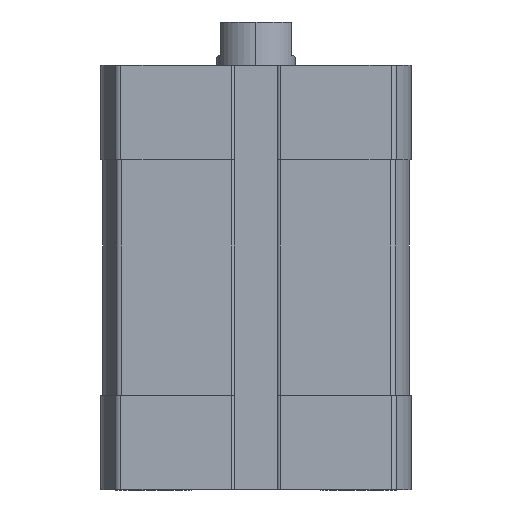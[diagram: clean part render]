
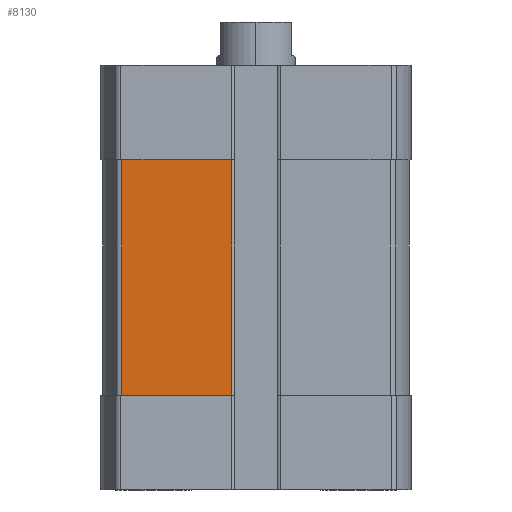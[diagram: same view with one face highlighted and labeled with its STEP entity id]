
A CAD part, left-side view. The second image highlights one B-rep face of the part: STEP entity #8130.
In plain terms, the highlighted planar face has unit normal (-1, 0, 0).
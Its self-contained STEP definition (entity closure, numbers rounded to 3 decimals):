
#444 = EDGE_CURVE ( 'NONE', #1490, #5552, #10749, .T. ) ;
#615 = VECTOR ( 'NONE', #11123, 1000. ) ;
#938 = ORIENTED_EDGE ( 'NONE', *, *, #6922, .T. ) ;
#1297 = CARTESIAN_POINT ( 'NONE',  ( -19.5, 3.1, -42. ) ) ;
#1490 = VERTEX_POINT ( 'NONE', #2410 ) ;
#1765 = CARTESIAN_POINT ( 'NONE',  ( -19.5, 3.1, -12. ) ) ;
#1885 = ORIENTED_EDGE ( 'NONE', *, *, #444, .T. ) ;
#2201 = DIRECTION ( 'NONE',  ( -1., 0., 0. ) ) ;
#2410 = CARTESIAN_POINT ( 'NONE',  ( -19.5, 17.091, -12. ) ) ;
#2693 = LINE ( 'NONE', #6908, #7816 ) ;
#2702 = EDGE_CURVE ( 'NONE', #5552, #4393, #8408, .T. ) ;
#2906 = AXIS2_PLACEMENT_3D ( 'NONE', #5199, #2201, #9353 ) ;
#2938 = VECTOR ( 'NONE', #2961, 1000. ) ;
#2961 = DIRECTION ( 'NONE',  ( 0., 0., -1. ) ) ;
#3009 = CARTESIAN_POINT ( 'NONE',  ( -19.5, 17.091, -42. ) ) ;
#3343 = VECTOR ( 'NONE', #12165, 1000. ) ;
#3960 = CARTESIAN_POINT ( 'NONE',  ( -19.5, 17.091, -42. ) ) ;
#4154 = ORIENTED_EDGE ( 'NONE', *, *, #7483, .T. ) ;
#4393 = VERTEX_POINT ( 'NONE', #1297 ) ;
#5199 = CARTESIAN_POINT ( 'NONE',  ( -19.5, 17.091, -42. ) ) ;
#5552 = VERTEX_POINT ( 'NONE', #5636 ) ;
#5636 = CARTESIAN_POINT ( 'NONE',  ( -19.5, 17.091, -42. ) ) ;
#5926 = DIRECTION ( 'NONE',  ( 0., 0., 1. ) ) ;
#6908 = CARTESIAN_POINT ( 'NONE',  ( -19.5, 3.1, -42. ) ) ;
#6922 = EDGE_CURVE ( 'NONE', #9212, #1490, #8453, .T. ) ;
#7483 = EDGE_CURVE ( 'NONE', #4393, #9212, #2693, .T. ) ;
#7816 = VECTOR ( 'NONE', #5926, 1000. ) ;
#8130 = ADVANCED_FACE ( 'NONE', ( #12275 ), #11358, .T. ) ;
#8408 = LINE ( 'NONE', #3960, #615 ) ;
#8453 = LINE ( 'NONE', #10112, #3343 ) ;
#9212 = VERTEX_POINT ( 'NONE', #1765 ) ;
#9353 = DIRECTION ( 'NONE',  ( 0., 0., 1. ) ) ;
#10112 = CARTESIAN_POINT ( 'NONE',  ( -19.5, 0., -12. ) ) ;
#10300 = EDGE_LOOP ( 'NONE', ( #11716, #4154, #938, #1885 ) ) ;
#10749 = LINE ( 'NONE', #3009, #2938 ) ;
#11123 = DIRECTION ( 'NONE',  ( 0., -1., 0. ) ) ;
#11358 = PLANE ( 'NONE',  #2906 ) ;
#11716 = ORIENTED_EDGE ( 'NONE', *, *, #2702, .T. ) ;
#12165 = DIRECTION ( 'NONE',  ( 0., 1., 0. ) ) ;
#12275 = FACE_OUTER_BOUND ( 'NONE', #10300, .T. ) ;
